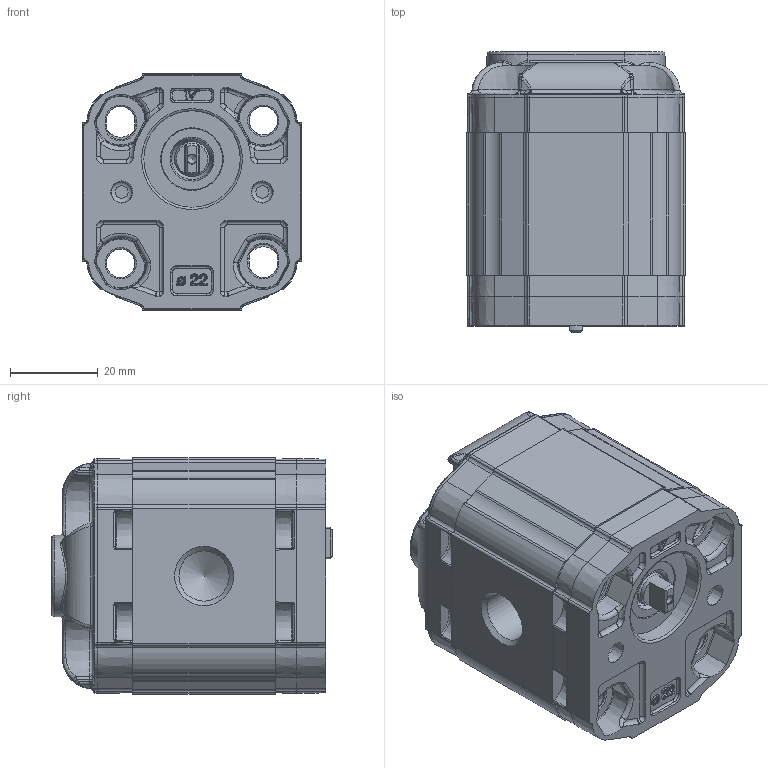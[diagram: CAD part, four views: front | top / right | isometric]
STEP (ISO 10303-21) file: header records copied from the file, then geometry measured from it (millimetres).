
FILE_DESCRIPTION(/* description */ ('Unknown'),/* implementation_level */ '2;1');
FILE_NAME(/* name */ 'X0F0523NBBA',/* time_stamp */ '2026-05-25T17:11:26+02:00',/* author */ ('Unknown'),/* organization */ ('Unknown'),/* preprocessor_version */ 'ST-DEVELOPER v16.7',/* originating_system */ 'Solid Edge',/* authorisation */ 'Unknown');
FILE_SCHEMA (('AUTOMOTIVE_DESIGN {1 0 10303 214 3 1 1}'));
Products named in the file (5): X0F0523NBBA; X0F23; 0N; X0BBH32,5; XF002-A
Assembly tree (4 placements, depth 2):
  X0F0523NBBA
    X0F23
    0N
    X0BBH32,5
    XF002-A
Bounding box: 50 x 64 x 54 mm (x, y, z)
Volume: 124875 mm3; surface area: 32234 mm2
Topology: 4 solids, 4 shells, 2056 faces, 4965 edges, 2927 vertices
Faces by surface type: cylinder 628, bspline 484, plane 471, cone 225, torus 188, sphere 60
Full cylindrical faces by diameter (mm): 2 x1, 6.5 x4, 6.511 x1, 6.518 x1, 7.16 x1, 7.5 x2, 7.92 x1, 11.445 x2, 13.178 x1, 14 x1, 22 x1
Entity records: 119259 total; most frequent: CARTESIAN_POINT 71626, ORIENTED_EDGE 9582, DIRECTION 8487, EDGE_CURVE 4791, AXIS2_PLACEMENT_3D 3436, VERTEX_POINT 2888, FACE_BOUND 2227, EDGE_LOOP 2224
